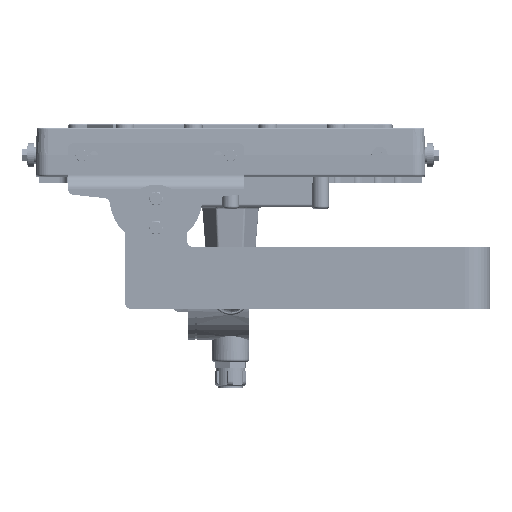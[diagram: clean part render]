
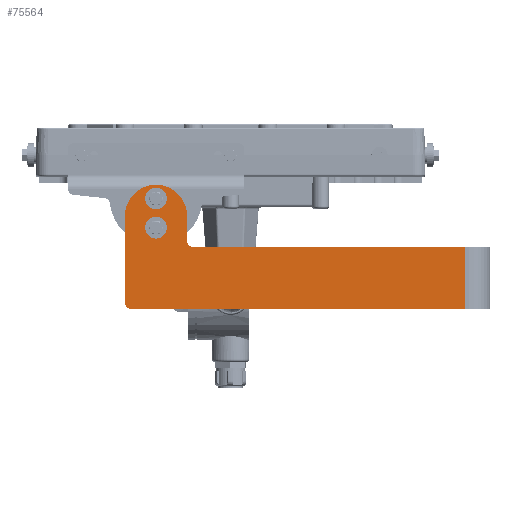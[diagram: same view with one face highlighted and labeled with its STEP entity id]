
A CAD part, left-side view. The second image highlights one B-rep face of the part: STEP entity #75564.
In plain terms, the highlighted planar face has unit normal (-1, 0, 0) as drawn and (0, -1, 0) by its records, which use the part's own axes.
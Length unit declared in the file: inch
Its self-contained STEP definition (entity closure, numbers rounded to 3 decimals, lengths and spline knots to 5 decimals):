
#319 = CARTESIAN_POINT ( 'NONE',  ( 1.5, -14.875, 11.4469 ) ) ;
#3927 = AXIS2_PLACEMENT_3D ( 'NONE', #54185, #118754, #63428 ) ;
#7659 = CARTESIAN_POINT ( 'NONE',  ( 2.5, -14.875, 11.6969 ) ) ;
#7869 = CIRCLE ( 'NONE', #99615, 0.1875 ) ;
#8422 = ORIENTED_EDGE ( 'NONE', *, *, #111820, .F. ) ;
#9147 = VERTEX_POINT ( 'NONE', #19099 ) ;
#9469 = LINE ( 'NONE', #57082, #55660 ) ;
#9571 = DIRECTION ( 'NONE',  ( -1., 0., 0. ) ) ;
#9616 = ORIENTED_EDGE ( 'NONE', *, *, #31862, .F. ) ;
#11349 = AXIS2_PLACEMENT_3D ( 'NONE', #76952, #95550, #40233 ) ;
#11489 = VERTEX_POINT ( 'NONE', #73362 ) ;
#12305 = CIRCLE ( 'NONE', #108712, 1.25 ) ;
#13136 = VERTEX_POINT ( 'NONE', #20273 ) ;
#13678 = DIRECTION ( 'NONE',  ( 0., 1., 0. ) ) ;
#14593 = CARTESIAN_POINT ( 'NONE',  ( 2.5, -14.875, 14.1969 ) ) ;
#15608 = CIRCLE ( 'NONE', #18297, 0.1875 ) ;
#16923 = DIRECTION ( 'NONE',  ( -1., 0., 0. ) ) ;
#17162 = AXIS2_PLACEMENT_3D ( 'NONE', #34550, #99103, #43810 ) ;
#17242 = EDGE_CURVE ( 'NONE', #75918, #73422, #7869, .T. ) ;
#17383 = DIRECTION ( 'NONE',  ( 0., -1., 0. ) ) ;
#17618 = DIRECTION ( 'NONE',  ( 1., 0., 0. ) ) ;
#18297 = AXIS2_PLACEMENT_3D ( 'NONE', #68899, #13678, #78155 ) ;
#19079 = LINE ( 'NONE', #91264, #89768 ) ;
#19099 = CARTESIAN_POINT ( 'NONE',  ( -1.25, -14.875, 13.9469 ) ) ;
#19212 = CARTESIAN_POINT ( 'NONE',  ( -1.25, -14.875, 0.5 ) ) ;
#19524 = ORIENTED_EDGE ( 'NONE', *, *, #27847, .F. ) ;
#20273 = CARTESIAN_POINT ( 'NONE',  ( 3.0025, -14.875, 12.9469 ) ) ;
#24999 = CARTESIAN_POINT ( 'NONE',  ( 1.5, -14.875, 11.6969 ) ) ;
#25643 = CARTESIAN_POINT ( 'NONE',  ( -1., -14.875, 13.9469 ) ) ;
#25795 = CARTESIAN_POINT ( 'NONE',  ( 2.5, -14.875, 12.9469 ) ) ;
#27847 = EDGE_CURVE ( 'NONE', #9147, #45892, #45635, .T. ) ;
#28946 = FACE_BOUND ( 'NONE', #38032, .T. ) ;
#29851 = VECTOR ( 'NONE', #104962, 39.37008 ) ;
#30942 = CIRCLE ( 'NONE', #17162, 0.1875 ) ;
#31077 = CARTESIAN_POINT ( 'NONE',  ( 1.25, -14.875, 0.5 ) ) ;
#31862 = EDGE_CURVE ( 'NONE', #57459, #9147, #19079, .T. ) ;
#34550 = CARTESIAN_POINT ( 'NONE',  ( 3.19, -14.875, 12.9469 ) ) ;
#34924 = DIRECTION ( 'NONE',  ( -1., 0., 0. ) ) ;
#35002 = EDGE_CURVE ( 'NONE', #37556, #117356, #38893, .T. ) ;
#35084 = DIRECTION ( 'NONE',  ( -1., 0., 0. ) ) ;
#35619 = CARTESIAN_POINT ( 'NONE',  ( 3.3775, -14.875, 12.9469 ) ) ;
#35929 = ORIENTED_EDGE ( 'NONE', *, *, #98246, .F. ) ;
#37556 = VERTEX_POINT ( 'NONE', #14593 ) ;
#38032 = EDGE_LOOP ( 'NONE', ( #99478, #89284 ) ) ;
#38893 = CIRCLE ( 'NONE', #100135, 1.25 ) ;
#40233 = DIRECTION ( 'NONE',  ( -1., 0., 0. ) ) ;
#40524 = ORIENTED_EDGE ( 'NONE', *, *, #45390, .F. ) ;
#41172 = VERTEX_POINT ( 'NONE', #45995 ) ;
#43155 = EDGE_CURVE ( 'NONE', #57459, #106335, #54370, .T. ) ;
#43810 = DIRECTION ( 'NONE',  ( -1., 0., 0. ) ) ;
#45390 = EDGE_CURVE ( 'NONE', #117356, #41172, #12305, .T. ) ;
#45635 = CIRCLE ( 'NONE', #57900, 0.25 ) ;
#45831 = DIRECTION ( 'NONE',  ( 0., 1., 0. ) ) ;
#45892 = VERTEX_POINT ( 'NONE', #88914 ) ;
#45995 = CARTESIAN_POINT ( 'NONE',  ( 2.5, -14.875, 11.6969 ) ) ;
#46189 = ORIENTED_EDGE ( 'NONE', *, *, #17242, .F. ) ;
#54185 = CARTESIAN_POINT ( 'NONE',  ( 2.02, -14.875, 12.9469 ) ) ;
#54370 = LINE ( 'NONE', #67841, #29851 ) ;
#55154 = EDGE_CURVE ( 'NONE', #101598, #13136, #15608, .T. ) ;
#55469 = VECTOR ( 'NONE', #17618, 39.37008 ) ;
#55660 = VECTOR ( 'NONE', #66320, 39.37008 ) ;
#57082 = CARTESIAN_POINT ( 'NONE',  ( 1.25, -14.875, -40.5531 ) ) ;
#57459 = VERTEX_POINT ( 'NONE', #19212 ) ;
#57900 = AXIS2_PLACEMENT_3D ( 'NONE', #25643, #90145, #34924 ) ;
#58364 = LINE ( 'NONE', #63533, #55469 ) ;
#58390 = VERTEX_POINT ( 'NONE', #24999 ) ;
#60081 = ORIENTED_EDGE ( 'NONE', *, *, #80056, .F. ) ;
#62733 = CARTESIAN_POINT ( 'NONE',  ( 2.02, -14.875, 13.1344 ) ) ;
#63428 = DIRECTION ( 'NONE',  ( 0., 0., -1. ) ) ;
#63533 = CARTESIAN_POINT ( 'NONE',  ( -1., -14.875, 14.1969 ) ) ;
#63687 = ORIENTED_EDGE ( 'NONE', *, *, #35002, .F. ) ;
#64804 = DIRECTION ( 'NONE',  ( 0., -1., 0. ) ) ;
#66320 = DIRECTION ( 'NONE',  ( 0., 0., -1. ) ) ;
#67841 = CARTESIAN_POINT ( 'NONE',  ( 1.5, -14.875, 0.5 ) ) ;
#68712 = ORIENTED_EDGE ( 'NONE', *, *, #43155, .T. ) ;
#68899 = CARTESIAN_POINT ( 'NONE',  ( 3.19, -14.875, 12.9469 ) ) ;
#69112 = AXIS2_PLACEMENT_3D ( 'NONE', #319, #64804, #9571 ) ;
#72639 = CARTESIAN_POINT ( 'NONE',  ( 2.02, -14.875, 12.9469 ) ) ;
#73172 = EDGE_LOOP ( 'NONE', ( #60081, #46189 ) ) ;
#73362 = CARTESIAN_POINT ( 'NONE',  ( 1.25, -14.875, 11.4469 ) ) ;
#73422 = VERTEX_POINT ( 'NONE', #93087 ) ;
#75105 = FACE_OUTER_BOUND ( 'NONE', #112048, .T. ) ;
#75564 = ADVANCED_FACE ( 'NONE', ( #105449, #28946, #75105 ), #86185, .T. ) ;
#75918 = VERTEX_POINT ( 'NONE', #62733 ) ;
#76952 = CARTESIAN_POINT ( 'NONE',  ( 1.5, -14.875, 11.4469 ) ) ;
#78155 = DIRECTION ( 'NONE',  ( -1., 0., 0. ) ) ;
#78528 = CARTESIAN_POINT ( 'NONE',  ( 3.75, -14.875, 12.9469 ) ) ;
#80056 = EDGE_CURVE ( 'NONE', #73422, #75918, #95603, .T. ) ;
#80070 = LINE ( 'NONE', #7659, #101756 ) ;
#81843 = DIRECTION ( 'NONE',  ( 0., 0., -1. ) ) ;
#83902 = EDGE_CURVE ( 'NONE', #58390, #11489, #99196, .T. ) ;
#86185 = PLANE ( 'NONE',  #11349 ) ;
#88914 = CARTESIAN_POINT ( 'NONE',  ( -1., -14.875, 14.1969 ) ) ;
#89284 = ORIENTED_EDGE ( 'NONE', *, *, #112488, .T. ) ;
#89768 = VECTOR ( 'NONE', #100555, 39.37008 ) ;
#90145 = DIRECTION ( 'NONE',  ( 0., 1., 0. ) ) ;
#90291 = DIRECTION ( 'NONE',  ( 0., 1., 0. ) ) ;
#91264 = CARTESIAN_POINT ( 'NONE',  ( -1.25, -14.875, 13.9469 ) ) ;
#93087 = CARTESIAN_POINT ( 'NONE',  ( 2.02, -14.875, 12.7594 ) ) ;
#95550 = DIRECTION ( 'NONE',  ( 0., -1., 0. ) ) ;
#95574 = ORIENTED_EDGE ( 'NONE', *, *, #83902, .F. ) ;
#95603 = CIRCLE ( 'NONE', #3927, 0.1875 ) ;
#98246 = EDGE_CURVE ( 'NONE', #45892, #37556, #58364, .T. ) ;
#99103 = DIRECTION ( 'NONE',  ( 0., 1., 0. ) ) ;
#99196 = CIRCLE ( 'NONE', #69112, 0.25 ) ;
#99478 = ORIENTED_EDGE ( 'NONE', *, *, #55154, .T. ) ;
#99615 = AXIS2_PLACEMENT_3D ( 'NONE', #72639, #17383, #81843 ) ;
#99637 = ORIENTED_EDGE ( 'NONE', *, *, #111156, .F. ) ;
#100135 = AXIS2_PLACEMENT_3D ( 'NONE', #25795, #90291, #35084 ) ;
#100555 = DIRECTION ( 'NONE',  ( 0., 0., 1. ) ) ;
#101121 = CARTESIAN_POINT ( 'NONE',  ( 2.5, -14.875, 12.9469 ) ) ;
#101598 = VERTEX_POINT ( 'NONE', #35619 ) ;
#101756 = VECTOR ( 'NONE', #16923, 39.37008 ) ;
#104962 = DIRECTION ( 'NONE',  ( 1., 0., 0. ) ) ;
#105449 = FACE_BOUND ( 'NONE', #73172, .T. ) ;
#106335 = VERTEX_POINT ( 'NONE', #31077 ) ;
#108712 = AXIS2_PLACEMENT_3D ( 'NONE', #101121, #45831, #110356 ) ;
#110356 = DIRECTION ( 'NONE',  ( -1., 0., 0. ) ) ;
#111156 = EDGE_CURVE ( 'NONE', #11489, #106335, #9469, .T. ) ;
#111820 = EDGE_CURVE ( 'NONE', #41172, #58390, #80070, .T. ) ;
#112048 = EDGE_LOOP ( 'NONE', ( #9616, #68712, #99637, #95574, #8422, #40524, #63687, #35929, #19524 ) ) ;
#112488 = EDGE_CURVE ( 'NONE', #13136, #101598, #30942, .T. ) ;
#117356 = VERTEX_POINT ( 'NONE', #78528 ) ;
#118754 = DIRECTION ( 'NONE',  ( 0., -1., 0. ) ) ;
